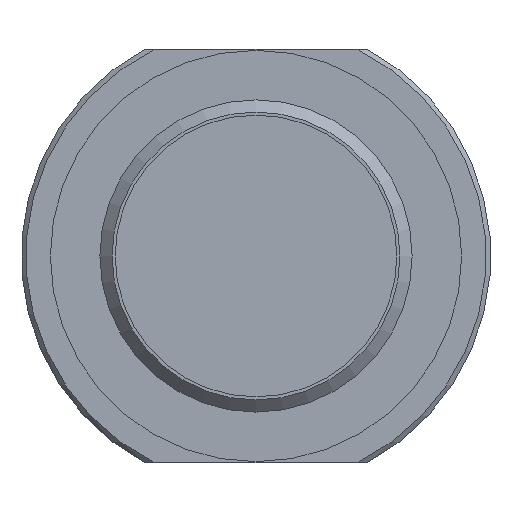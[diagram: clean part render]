
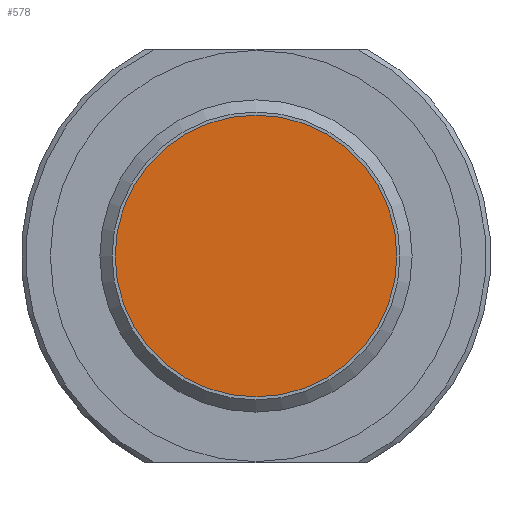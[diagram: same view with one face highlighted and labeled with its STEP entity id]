
A CAD part, left-side view. The second image highlights one B-rep face of the part: STEP entity #578.
In plain terms, the highlighted planar face has unit normal (-1, 0, 0).
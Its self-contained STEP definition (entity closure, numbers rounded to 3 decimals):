
#115=FACE_OUTER_BOUND('',#170,.T.);
#170=EDGE_LOOP('',(#408));
#243=CIRCLE('',#643,15.);
#287=VERTEX_POINT('',#934);
#339=EDGE_CURVE('',#287,#287,#243,.T.);
#408=ORIENTED_EDGE('',*,*,#339,.T.);
#513=PLANE('',#642);
#578=ADVANCED_FACE('',(#115),#513,.T.);
#642=AXIS2_PLACEMENT_3D('',#933,#754,#755);
#643=AXIS2_PLACEMENT_3D('',#935,#756,#757);
#754=DIRECTION('center_axis',(-1.,0.,0.));
#755=DIRECTION('ref_axis',(0.,0.,-1.));
#756=DIRECTION('center_axis',(-1.,0.,0.));
#757=DIRECTION('ref_axis',(0.,-1.,0.));
#933=CARTESIAN_POINT('Origin',(-59.75,-8.312,0.));
#934=CARTESIAN_POINT('',(-59.75,-15.,0.));
#935=CARTESIAN_POINT('Origin',(-59.75,0.,0.));
